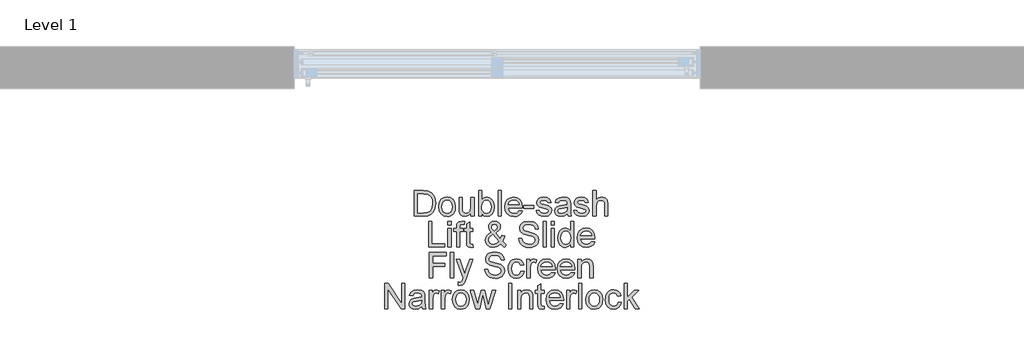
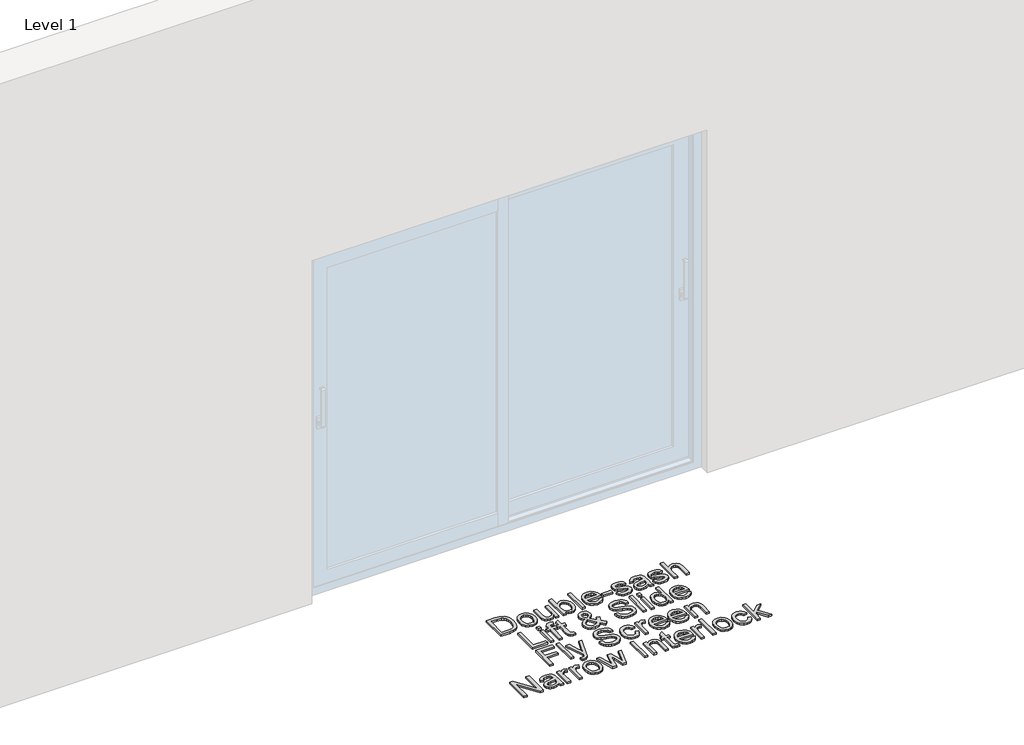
# One storey, part 8 of 17: 1 proxy.
"""IFC4 building model written with IfcOpenShell, lengths in millimetres."""

from ifc_helpers import new_model, si_unit, origin, origin_with_axes, place, context, project, spatial, polyline, outline, extrude, element, save

model = new_model("IFC4")

# Units and contexts
model_context = context("Model", 3, world=origin())
ifc_project = project(units=[si_unit("LENGTHUNIT", "METRE", prefix="MILLI")], contexts=[model_context])

# Site, building, storey
site = spatial("IfcSite", under=ifc_project)
building = spatial("IfcBuilding", under=site)
storey = spatial("IfcBuildingStorey", under=building, Name="Level 1", Elevation=0.0)

# Proxy
placement = place(None, origin())
element("IfcBuildingElementProxy", 1, Name="150mm Arial", ObjectType="150mm Arial", at=placement, inside=storey, context=model_context, shape_type="SweptSolid", body=[
    extrude(outline(polyline([(7088.4009515, -897.6627533), (7088.4009515, -746.9782881), (7140.3826774, -746.9782881), (7167.2748513, -749.1487919), (7189.4213474, -759.9277343), (7199.8416049, -771.4056526), (7207.2636242, -785.679474), (7211.7057993, -802.4732871), (7213.1865243, -821.5111803), (7209.1766105, -851.9166272), (7198.8759147, -873.8607883), (7185.1171281, -887.5276044), (7167.1093044, -895.0875794), (7142.884275, -897.6627533), (7088.4009515, -897.6627533)]), holes=[polyline([(7107.2365097, -878.8271952), (7140.5666184, -878.8271952), (7164.8100419, -876.1048684), (7178.7895577, -868.4161347), (7190.2490819, -849.7093353), (7194.3509661, -821.2168747), (7192.3414107, -800.6890594), (7186.3127445, -785.5323212), (7177.4054017, -775.1212607), (7166.7598165, -768.8304786), (7140.0515836, -765.8138463), (7107.2365097, -765.8138463), (7107.2365097, -878.8271952)])]), origin_with_axes(), (0.0, 0.0, 1.0), 10.0),
    extrude(outline(polyline([(7232.0220824, -842.3333013), (7236.0963755, -815.6526596), (7248.3192548, -796.8998749), (7263.4208107, -787.712022), (7281.5022108, -784.6494044), (7301.2896636, -788.3788081), (7317.0947938, -799.5670193), (7327.4552705, -817.3311212), (7330.9087627, -840.7881969), (7329.3820525, -859.8168931), (7324.8019216, -874.3022466), (7317.3017274, -885.150167), (7307.0148272, -893.2665635), (7294.7965464, -898.3295395), (7281.5022108, -900.0171981), (7261.4756347, -896.30159), (7245.6888986, -885.1547655), (7235.4387865, -867.0181831), (7232.0220824, -842.3333013)]), holes=[polyline([(7250.8576406, -842.2965131), (7253.0373414, -859.343245), (7259.5764439, -871.4879494), (7269.4172873, -878.7582173), (7281.5022108, -881.18164), (7293.531952, -878.7444217), (7303.3544013, -871.4327671), (7309.8935038, -859.1271143), (7312.0732046, -841.7079019), (7309.8797082, -825.1578106), (7303.299219, -813.1786531), (7293.4629742, -805.9083852), (7281.5022108, -803.4849626), (7269.4172873, -805.8991882), (7259.5764439, -813.141865), (7253.0373414, -825.2589782), (7250.8576406, -842.2965131)])]), origin_with_axes(), (0.0, 0.0, 1.0), 10.0),
    extrude(outline(polyline([(7422.7321087, -897.6627533), (7422.7321087, -878.6432542), (7407.9800407, -894.6737121), (7388.7398124, -900.0171981), (7371.0262943, -896.2648018), (7358.8126121, -886.8470227), (7353.2024117, -872.9778715), (7352.0987657, -855.4666885), (7352.0987657, -787.0038492), (7370.9343238, -787.0038492), (7370.9343238, -846.6007324), (7372.074758, -865.8041726), (7379.5243684, -877.0797557), (7393.5590665, -881.18164), (7409.2860218, -876.9877852), (7419.6786882, -865.5650493), (7422.7321087, -844.5773814), (7422.7321087, -787.0038492), (7441.5676669, -787.0038492), (7441.5676669, -897.6627533), (7422.7321087, -897.6627533)])), origin_with_axes(), (0.0, 0.0, 1.0), 10.0),
    extrude(outline(polyline([(7486.3021175, -897.6627533), (7467.4665594, -897.6627533), (7467.4665594, -746.9782881), (7486.3021175, -746.9782881), (7486.3021175, -802.8595632), (7499.490687, -789.2019441), (7515.8798299, -784.6494044), (7534.7521763, -788.7512887), (7549.3938797, -800.2843892), (7558.3885945, -818.2186365), (7561.6443501, -840.6778323), (7558.2736313, -865.8225667), (7548.161475, -884.5293661), (7533.322035, -896.1452401), (7515.7694653, -900.0171981), (7499.0216375, -895.0232), (7486.3021175, -880.0412058), (7486.3021175, -897.6627533)]), holes=[polyline([(7486.3021175, -841.5607491), (7487.5897045, -857.2693103), (7491.4524654, -867.9010999), (7501.3209, -877.861505), (7514.1507845, -881.18164), (7525.0216975, -878.7352247), (7534.3107179, -871.3959789), (7540.6842734, -859.2098878), (7542.808792, -842.2229367), (7540.7716454, -824.9876652), (7534.6602058, -812.9395299), (7525.6608925, -805.8486044), (7514.9601249, -803.4849626), (7504.089212, -805.9313778), (7494.8001916, -813.2706236), (7488.426636, -825.2359855), (7486.3021175, -841.5607491)])]), origin_with_axes(), (0.0, 0.0, 1.0), 10.0),
    extrude(outline(polyline([(7582.834353, -897.6627533), (7582.834353, -746.9782881), (7601.6699112, -746.9782881), (7601.6699112, -897.6627533), (7582.834353, -897.6627533)])), origin_with_axes(), (0.0, 0.0, 1.0), 10.0),
    extrude(outline(polyline([(7707.3991966, -864.7005266), (7725.8668728, -867.0549713), (7719.2128072, -880.9701078), (7708.5948131, -891.3719712), (7694.2520138, -897.8558914), (7676.4235326, -900.0171981), (7654.3230218, -896.2877944), (7637.3176765, -885.0995832), (7626.4743547, -867.1791315), (7622.8599141, -843.2530063), (7626.5111429, -818.5221391), (7637.4648293, -800.0268718), (7654.2402483, -788.4937713), (7675.3566748, -784.6494044), (7695.8155123, -788.4845742), (7712.1632684, -799.9900836), (7722.8824301, -818.4485627), (7726.455484, -843.1426417), (7726.3451194, -848.2194132), (7641.6954723, -848.2194132), (7644.9558265, -862.3184907), (7652.529597, -872.6835659), (7663.4602908, -879.0571214), (7676.7914146, -881.18164), (7695.2590908, -877.2453026), (7707.3991966, -864.7005266)]), holes=[polyline([(7641.6954723, -829.383855), (7707.6199258, -829.383855), (7705.072343, -819.4326471), (7700.0783449, -812.3141305), (7689.0970674, -805.6922545), (7675.2830984, -803.4849626), (7662.5865711, -805.2461976), (7652.0881386, -810.5299028), (7644.7902796, -818.765861), (7641.6954723, -829.383855)])]), origin_with_axes(), (0.0, 0.0, 1.0), 10.0),
    extrude(outline(polyline([(7735.873263, -852.9283027), (7735.873263, -834.0927446), (7794.7343823, -834.0927446), (7794.7343823, -852.9283027), (7735.873263, -852.9283027)])), origin_with_axes(), (0.0, 0.0, 1.0), 10.0),
    extrude(outline(polyline([(7808.8610509, -864.7005266), (7827.696609, -862.3460818), (7830.6672561, -870.4026975), (7836.4154123, -876.3255976), (7856.3914047, -881.18164), (7875.5948448, -876.7302678), (7881.8488387, -866.2824192), (7880.2761432, -861.4815591), (7875.5580566, -857.8211333), (7856.1706755, -852.4500561), (7827.8069736, -843.2346122), (7815.4277445, -832.4740638), (7811.2154956, -817.2805374), (7814.60001, -803.2458393), (7823.8338481, -792.5220791), (7835.808407, -786.9486669), (7852.0136089, -784.6494044), (7874.9326572, -788.3466185), (7889.5007842, -798.3530087), (7895.9755073, -815.2571864), (7877.1399492, -817.6116312), (7870.0582208, -807.2189648), (7853.4851369, -803.4849626), (7835.4589191, -807.0534179), (7830.0510538, -815.367551), (7832.295134, -820.8489927), (7839.3216801, -825.0060593), (7855.5452761, -829.015973), (7883.191608, -837.8819291), (7896.0306896, -847.9251076), (7900.6843969, -864.2958564), (7895.2213492, -882.3220741), (7879.4576058, -895.4002791), (7856.1338873, -900.0171981), (7837.1419793, -897.791512), (7823.2820251, -891.1144538), (7814.0297929, -880.0595999), (7808.8610509, -864.7005266)])), origin_with_axes(), (0.0, 0.0, 1.0), 10.0),
    extrude(outline(polyline([(7992.5077429, -883.5360847), (7974.2424018, -896.30159), (7954.0640744, -900.0171981), (7938.3233235, -897.782315), (7926.712048, -891.0776656), (7919.5521447, -880.8965314), (7917.1655103, -868.2321937), (7920.7707538, -853.3329729), (7930.2437152, -842.5172423), (7943.4322847, -836.3368247), (7959.7294571, -833.5041334), (7992.3973783, -827.0294103), (7992.5077429, -822.8355555), (7991.2109588, -814.4294519), (7987.3206067, -808.9296161), (7978.6201976, -804.846126), (7966.4984858, -803.4849626), (7947.4421985, -807.1086002), (7938.3555132, -819.966076), (7919.519955, -817.6116312), (7927.6685412, -799.2175314), (7944.0760782, -788.438589), (7968.926507, -784.6494044), (7991.7535848, -787.9971306), (8004.6478487, -796.4032342), (8010.423596, -809.1871335), (8011.343301, -825.6682469), (8011.343301, -849.10233), (8012.2997942, -881.8254334), (8016.0521906, -897.6627533), (7997.2166324, -897.6627533), (7992.5077429, -883.5360847)]), holes=[polyline([(7992.5077429, -845.8649684), (7962.1206901, -851.6407157), (7945.9154882, -854.6941363), (7938.5762424, -859.6605432), (7936.0010684, -866.9078185), (7941.6112688, -877.0981498), (7958.0739881, -881.18164), (7977.1302755, -876.6750855), (7989.4175341, -865.7673844), (7992.3973783, -851.1992574), (7992.5077429, -845.8649684)])]), origin_with_axes(), (0.0, 0.0, 1.0), 10.0),
    extrude(outline(polyline([(8030.1788592, -864.7005266), (8049.0144173, -862.3460818), (8051.9850644, -870.4026975), (8057.7332206, -876.3255976), (8077.709213, -881.18164), (8096.9126531, -876.7302678), (8103.166647, -866.2824192), (8101.5939515, -861.4815591), (8096.8758649, -857.8211333), (8077.4884838, -852.4500561), (8049.1247819, -843.2346122), (8036.7455528, -832.4740638), (8032.5333039, -817.2805374), (8035.9178183, -803.2458393), (8045.1516564, -792.5220791), (8057.1262153, -786.9486669), (8073.3314172, -784.6494044), (8096.2504655, -788.3466185), (8110.8185925, -798.3530087), (8117.2933156, -815.2571864), (8098.4577575, -817.6116312), (8091.3760291, -807.2189648), (8074.8029452, -803.4849626), (8056.7767274, -807.0534179), (8051.3688621, -815.367551), (8053.6129423, -820.8489927), (8060.6394884, -825.0060593), (8076.8630844, -829.015973), (8104.5094163, -837.8819291), (8117.3484979, -847.9251076), (8122.0022052, -864.2958564), (8116.5391575, -882.3220741), (8100.7754141, -895.4002791), (8077.4516956, -900.0171981), (8058.4597876, -897.791512), (8044.5998334, -891.1144538), (8035.3476012, -880.0595999), (8030.1788592, -864.7005266)])), origin_with_axes(), (0.0, 0.0, 1.0), 10.0),
    extrude(outline(polyline([(8143.1922081, -897.6627533), (8143.1922081, -746.9782881), (8162.0277662, -746.9782881), (8162.0277662, -802.3813166), (8176.7154549, -789.0823825), (8194.806052, -784.6494044), (8215.9592667, -789.4870527), (8228.7983484, -802.8595632), (8232.6611093, -827.6180215), (8232.6611093, -897.6627533), (8213.8255512, -897.6627533), (8213.8255512, -829.567796), (8212.326432, -817.7771781), (8207.8290746, -809.7021683), (8200.5817993, -805.039264), (8190.8329265, -803.4849626), (8175.4002768, -807.6788173), (8165.0995809, -819.046371), (8162.0277662, -838.8752105), (8162.0277662, -897.6627533), (8143.1922081, -897.6627533)])), origin_with_axes(), (0.0, 0.0, 1.0), 10.0),
    extrude(outline(polyline([(7173.1609632, -1080.6249801), (7173.1609632, -929.9405149), (7191.9965214, -929.9405149), (7191.9965214, -1061.789422), (7267.338754, -1061.789422), (7267.338754, -1080.6249801), (7173.1609632, -1080.6249801)])), origin_with_axes(), (0.0, 0.0, 1.0), 10.0),
    extrude(outline(polyline([(7286.1743121, -948.776073), (7286.1743121, -929.9405149), (7305.0098703, -929.9405149), (7305.0098703, -948.776073), (7286.1743121, -948.776073)])), origin_with_axes(), (0.0, 0.0, 1.0), 10.0),
    extrude(outline(polyline([(7286.1743121, -1080.6249801), (7286.1743121, -969.966076), (7305.0098703, -969.966076), (7305.0098703, -1080.6249801), (7286.1743121, -1080.6249801)])), origin_with_axes(), (0.0, 0.0, 1.0), 10.0),
    extrude(outline(polyline([(7337.9720971, -1080.6249801), (7337.9720971, -988.8016341), (7321.4909837, -988.8016341), (7321.4909837, -969.966076), (7337.9720971, -969.966076), (7337.9720971, -958.8192515), (7339.9586598, -943.1106903), (7349.5971681, -931.8902895), (7368.5798791, -927.5860701), (7385.7599682, -929.6462093), (7383.0008533, -947.3045451), (7372.1483344, -946.4216283), (7360.2841401, -949.5486252), (7356.8076552, -961.2104845), (7356.8076552, -969.966076), (7377.9976581, -969.966076), (7377.9976581, -988.8016341), (7356.8076552, -988.8016341), (7356.8076552, -1080.6249801), (7337.9720971, -1080.6249801)])), origin_with_axes(), (0.0, 0.0, 1.0), 10.0),
    extrude(outline(polyline([(7434.5043326, -1064.9164189), (7436.8587774, -1081.1768031), (7422.7688969, -1082.9794249), (7406.9867593, -1079.8524279), (7399.1140847, -1071.6486594), (7396.8332163, -1050.2747155), (7396.8332163, -988.8016341), (7382.7065477, -988.8016341), (7382.7065477, -969.966076), (7396.8332163, -969.966076), (7396.8332163, -943.0739021), (7415.6687744, -932.0006541), (7415.6687744, -969.966076), (7434.5043326, -969.966076), (7434.5043326, -988.8016341), (7415.6687744, -988.8016341), (7415.6687744, -1049.7228925), (7416.6620558, -1059.4349772), (7419.8810233, -1062.8746738), (7426.3005641, -1064.1438667), (7434.5043326, -1064.9164189)])), origin_with_axes(), (0.0, 0.0, 1.0), 10.0),
    extrude(outline(polyline([(7598.6164906, -1062.0101512), (7578.6404983, -1077.7371064), (7555.2799916, -1082.9794249), (7534.4946589, -1079.0982698), (7518.4917921, -1067.4548047), (7510.2420383, -1054.054703), (7507.4921204, -1039.1646793), (7509.7040109, -1025.9669127), (7516.3396824, -1014.1119154), (7527.3715437, -1003.6088844), (7542.7720038, -994.4670168), (7529.6202224, -975.4107295), (7526.3276786, -961.2840609), (7528.9212467, -948.5645409), (7536.7019508, -937.6292486), (7548.4097953, -930.0968647), (7562.7847843, -927.5860701), (7576.4607975, -929.9865001), (7587.3960898, -937.1877902), (7594.5697887, -947.7552005), (7596.9610217, -960.2539913), (7595.1905896, -970.7478252), (7589.8792933, -980.4507128), (7568.634108, -997.4836492), (7595.8941639, -1031.4391574), (7604.024356, -1010.5802482), (7622.8599141, -1014.6637384), (7609.5425859, -1045.6761906), (7632.2776932, -1068.4848743), (7618.1510246, -1082.9794249), (7598.6164906, -1062.0101512)]), holes=[polyline([(7559.1059644, -985.6010608), (7574.5937964, -973.9208074), (7578.1254635, -962.8291653), (7573.4717563, -951.0017591), (7561.8282911, -946.4216283), (7549.9273086, -950.9649709), (7545.1632367, -962.0566131), (7546.7819175, -968.9544005), (7551.6747481, -976.6247401), (7559.1059644, -985.6010608)]), polyline([(7585.9981382, -1048.4353055), (7552.3737238, -1006.4599699), (7531.6803616, -1022.2421075), (7526.3276786, -1036.6630817), (7528.1578915, -1045.5474319), (7533.6485303, -1054.7628758), (7542.4960923, -1061.798619), (7554.3970748, -1064.1438667), (7571.7059227, -1059.766071), (7585.9981382, -1048.4353055)])]), origin_with_axes(), (0.0, 0.0, 1.0), 10.0),
    extrude(outline(polyline([(7705.265481, -1028.8271952), (7724.1010392, -1028.8271952), (7730.1710921, -1047.6811474), (7744.9967365, -1059.6005241), (7767.584691, -1064.1438667), (7787.2663778, -1060.7041701), (7799.9767007, -1051.2496028), (7804.1521613, -1038.6128563), (7801.0251644, -1026.8590265), (7788.222871, -1018.3057701), (7760.7972682, -1011.1136771), (7731.2747381, -1001.8246567), (7715.2534772, -987.8083527), (7709.9743706, -969.0831592), (7711.6068469, -958.0512978), (7716.504276, -947.7643976), (7724.5378991, -939.0455943), (7735.5789574, -932.7180239), (7763.5012009, -927.5860701), (7793.2996425, -932.9571472), (7804.7223784, -939.5882202), (7813.1652702, -948.7392848), (7818.5087562, -959.840124), (7820.6332747, -972.3205207), (7801.7977166, -972.3205207), (7798.3396258, -961.0817258), (7791.1291387, -952.9699278), (7779.8627526, -948.0587031), (7764.2369649, -946.4216283), (7748.2432951, -948.040309), (7737.2712146, -952.8963514), (7730.9252502, -960.0424591), (7728.8099287, -968.5313362), (7730.3090479, -975.7694144), (7734.8064053, -981.591147), (7765.56134, -992.1125721), (7798.8914488, -1001.5671393), (7809.6290045, -1008.4005474), (7817.1200017, -1016.8342421), (7821.52079, -1026.7762531), (7822.9877195, -1038.1346097), (7821.3000608, -1049.7458851), (7816.2370849, -1060.6673819), (7808.0057252, -1070.0667668), (7796.8129155, -1077.1117071), (7783.353033, -1081.5124954), (7768.320455, -1082.9794249), (7749.8665744, -1081.3975323), (7734.6776466, -1076.6518546), (7722.5789274, -1068.7239976), (7713.3956731, -1057.5955672), (7707.5003642, -1044.0391157), (7705.265481, -1028.8271952)])), origin_with_axes(), (0.0, 0.0, 1.0), 10.0),
    extrude(outline(polyline([(7848.886612, -1080.6249801), (7848.886612, -929.9405149), (7867.7221701, -929.9405149), (7867.7221701, -1080.6249801), (7848.886612, -1080.6249801)])), origin_with_axes(), (0.0, 0.0, 1.0), 10.0),
    extrude(outline(polyline([(7895.9755073, -948.776073), (7895.9755073, -929.9405149), (7914.8110655, -929.9405149), (7914.8110655, -948.776073), (7895.9755073, -948.776073)])), origin_with_axes(), (0.0, 0.0, 1.0), 10.0),
    extrude(outline(polyline([(7895.9755073, -1080.6249801), (7895.9755073, -969.966076), (7914.8110655, -969.966076), (7914.8110655, -1080.6249801), (7895.9755073, -1080.6249801)])), origin_with_axes(), (0.0, 0.0, 1.0), 10.0),
    extrude(outline(polyline([(8011.343301, -1080.6249801), (8011.343301, -1062.8562797), (7998.8812984, -1077.9486386), (7981.655224, -1082.9794249), (7969.47833, -1081.158409), (7958.3315055, -1075.6953614), (7948.8953323, -1066.9719596), (7941.8503921, -1055.3698811), (7937.4633993, -1041.3581756), (7936.0010684, -1025.4058926), (7941.3905396, -995.42351), (7948.1227802, -983.5317245), (7957.5405592, -974.7853301), (7968.9311055, -969.4050559), (7981.5816476, -967.6116312), (7998.9456778, -972.743585), (8011.343301, -986.0793073), (8011.343301, -929.9405149), (8030.1788592, -929.9405149), (8030.1788592, -1080.6249801), (8011.343301, -1080.6249801)]), holes=[polyline([(7954.8366266, -1025.3323162), (7956.9611451, -1042.3698511), (7963.3347007, -1054.4869644), (7972.5961299, -1061.7296411), (7983.3842694, -1064.1438667), (7994.1678104, -1061.8400057), (8003.1947148, -1054.9284227), (8009.3061545, -1043.2803591), (8011.343301, -1026.767056), (8009.2693663, -1008.7132471), (8003.047562, -996.1960622), (7993.7907313, -988.8844076), (7982.6117172, -986.4471893), (7971.7132131, -988.7878385), (7962.7828777, -995.8097861), (7956.8231893, -1007.871717), (7954.8366266, -1025.3323162)])]), origin_with_axes(), (0.0, 0.0, 1.0), 10.0),
    extrude(outline(polyline([(8135.9081446, -1047.6627533), (8154.3758208, -1050.0171981), (8147.7217552, -1063.9323346), (8137.1037611, -1074.334198), (8122.7609618, -1080.8181182), (8104.9324806, -1082.9794249), (8082.8319697, -1079.2500212), (8065.8266245, -1068.06181), (8054.9833027, -1050.1413583), (8051.3688621, -1026.215233), (8055.0200909, -1001.4843659), (8065.9737773, -982.9890986), (8082.7491963, -971.455998), (8103.8656228, -967.6116312), (8124.3244603, -971.446801), (8140.6722164, -982.9523104), (8151.3913781, -1001.4107895), (8154.9644319, -1026.1048684), (8154.8540673, -1031.18164), (8070.2044203, -1031.18164), (8073.4647744, -1045.2807174), (8081.038545, -1055.6457926), (8091.9692388, -1062.0193482), (8105.3003626, -1064.1438667), (8123.7680388, -1060.2075294), (8135.9081446, -1047.6627533)]), holes=[polyline([(8070.2044203, -1012.3460818), (8136.1288738, -1012.3460818), (8133.581291, -1002.3948738), (8128.5872929, -995.2763572), (8117.6060153, -988.6544813), (8103.7920464, -986.4471893), (8091.0955191, -988.2084244), (8080.5970866, -993.4921296), (8073.2992275, -1001.7280877), (8070.2044203, -1012.3460818)])]), origin_with_axes(), (0.0, 0.0, 1.0), 10.0),
    extrude(outline(polyline([(7176.6926304, -1263.5872069), (7176.6926304, -1112.9027417), (7277.9337554, -1112.9027417), (7277.9337554, -1131.7382998), (7195.5281885, -1131.7382998), (7195.5281885, -1176.4727504), (7266.1615316, -1176.4727504), (7266.1615316, -1195.3083086), (7195.5281885, -1195.3083086), (7195.5281885, -1263.5872069), (7176.6926304, -1263.5872069)])), origin_with_axes(), (0.0, 0.0, 1.0), 10.0),
    extrude(outline(polyline([(7301.4782031, -1263.5872069), (7301.4782031, -1112.9027417), (7320.3137613, -1112.9027417), (7320.3137613, -1263.5872069), (7301.4782031, -1263.5872069)])), origin_with_axes(), (0.0, 0.0, 1.0), 10.0),
    extrude(outline(polyline([(7348.5670985, -1305.9672127), (7346.2126537, -1287.8306304), (7355.7775856, -1289.4860993), (7364.7171181, -1287.4075661), (7370.1985598, -1281.6134246), (7375.3489078, -1267.7442734), (7376.8204357, -1263.1825367), (7336.7948747, -1152.9283027), (7356.6605024, -1152.9283027), (7377.8872935, -1214.3645959), (7385.2817216, -1238.9391132), (7392.6761497, -1217.2340755), (7414.4915521, -1152.9283027), (7434.210027, -1152.9283027), (7395.6927821, -1266.2359572), (7385.6863918, -1290.8104745), (7374.7602966, -1304.0910145), (7360.081805, -1308.3216575), (7348.5670985, -1305.9672127)])), origin_with_axes(), (0.0, 0.0, 1.0), 10.0),
    extrude(outline(polyline([(7503.9604533, -1211.789422), (7522.7960114, -1211.789422), (7528.8660644, -1230.6433742), (7543.6917088, -1242.5627509), (7566.2796633, -1247.1060935), (7585.96135, -1243.6663968), (7598.6716729, -1234.2118296), (7602.8471336, -1221.575083), (7599.7201366, -1209.8212533), (7586.9178432, -1201.2679969), (7559.4922404, -1194.0759039), (7529.9697103, -1184.7868835), (7513.9484494, -1170.7705795), (7508.6693428, -1152.0453859), (7510.3018192, -1141.0135246), (7515.1992482, -1130.7266243), (7523.2328713, -1122.007821), (7534.2739297, -1115.6802507), (7562.1961731, -1110.5482969), (7591.9946147, -1115.919374), (7603.4173507, -1122.550447), (7611.8602425, -1131.7015116), (7617.2037284, -1142.8023508), (7619.328247, -1155.2827475), (7600.4926888, -1155.2827475), (7597.0345981, -1144.0439525), (7589.824111, -1135.9321546), (7578.5577248, -1131.0209299), (7562.9319371, -1129.383855), (7546.9382674, -1131.0025358), (7535.9661869, -1135.8585782), (7529.6202224, -1143.0046859), (7527.504901, -1151.4935629), (7529.0040201, -1158.7316412), (7533.5013775, -1164.5533738), (7564.2563123, -1175.0747988), (7597.5864211, -1184.5293661), (7608.3239768, -1191.3627742), (7615.8149739, -1199.7964689), (7620.2157623, -1209.7384798), (7621.6826917, -1221.0968364), (7619.9950331, -1232.7081119), (7614.9320571, -1243.6296086), (7606.7006975, -1253.0289936), (7595.5078878, -1260.0739338), (7582.0480053, -1264.4747222), (7567.0154273, -1265.9416516), (7548.5615467, -1264.3597591), (7533.3726188, -1259.6140813), (7521.2738997, -1251.6862243), (7512.0906454, -1240.557794), (7506.1953364, -1227.0013425), (7503.9604533, -1211.789422)])), origin_with_axes(), (0.0, 0.0, 1.0), 10.0),
    extrude(outline(polyline([(7718.2149273, -1223.5616458), (7737.0504854, -1225.9160906), (7731.7989699, -1242.6685169), (7721.9305354, -1255.3282561), (7708.3740839, -1263.2883028), (7692.0585174, -1265.9416516), (7672.0227442, -1262.2398391), (7656.3555698, -1251.1344013), (7646.2434134, -1233.1127821), (7642.8726947, -1208.662425), (7644.312033, -1191.9008016), (7648.6300479, -1177.3740613), (7655.8957173, -1165.6432242), (7666.1780191, -1157.2693103), (7678.4790733, -1152.247721), (7691.801, -1150.573858), (7707.7164948, -1152.8731204), (7720.4406133, -1159.7709078), (7729.5686853, -1170.8993382), (7734.6960407, -1185.8905295), (7715.8604825, -1188.2449743), (7707.1232851, -1174.1366998), (7691.9481528, -1169.4094161), (7679.7758573, -1171.7362697), (7670.1143564, -1178.7168306), (7663.8097787, -1190.7281777), (7661.7082528, -1208.1473902), (7663.7637935, -1225.8011274), (7669.9304154, -1237.8538613), (7679.4171724, -1244.7930354), (7691.433118, -1247.1060935), (7701.1865894, -1245.6621567), (7709.1834243, -1241.3303462), (7715.0005583, -1234.0002974), (7718.2149273, -1223.5616458)])), origin_with_axes(), (0.0, 0.0, 1.0), 10.0),
    extrude(outline(polyline([(7753.5315988, -1263.5872069), (7753.5315988, -1152.9283027), (7770.0127122, -1152.9283027), (7770.0127122, -1169.2990515), (7781.7113596, -1154.2158897), (7793.4835835, -1150.573858), (7812.392718, -1156.3863935), (7806.1019359, -1173.2721771), (7792.8581841, -1169.4094161), (7782.2080003, -1173.1250243), (7775.4205775, -1183.4257201), (7772.367157, -1205.4250634), (7772.367157, -1263.5872069), (7753.5315988, -1263.5872069)])), origin_with_axes(), (0.0, 0.0, 1.0), 10.0),
    extrude(outline(polyline([(7901.6408901, -1230.6249801), (7920.1085662, -1232.9794249), (7913.4545006, -1246.8945613), (7902.8365065, -1257.2964248), (7888.4937073, -1263.7803449), (7870.6652261, -1265.9416516), (7848.5647152, -1262.2122479), (7831.55937, -1251.0240367), (7820.7160482, -1233.1035851), (7817.1016076, -1209.1774598), (7820.7528364, -1184.4465927), (7831.7065228, -1165.9513254), (7848.4819418, -1154.4182248), (7869.5983683, -1150.573858), (7890.0572057, -1154.4090278), (7906.4049619, -1165.9145372), (7917.1241235, -1184.3730163), (7920.6971774, -1209.0670952), (7920.5868128, -1214.1438667), (7835.9371657, -1214.1438667), (7839.1975199, -1228.2429442), (7846.7712905, -1238.6080194), (7857.7019843, -1244.981575), (7871.0331081, -1247.1060935), (7889.5007842, -1243.1697561), (7901.6408901, -1230.6249801)]), holes=[polyline([(7835.9371657, -1195.3083086), (7901.8616193, -1195.3083086), (7899.3140364, -1185.3571006), (7894.3200384, -1178.238584), (7883.3387608, -1171.6167081), (7869.5247919, -1169.4094161), (7856.8282645, -1171.1706512), (7846.3298321, -1176.4543563), (7839.031973, -1184.6903145), (7835.9371657, -1195.3083086)])]), origin_with_axes(), (0.0, 0.0, 1.0), 10.0),
    extrude(outline(polyline([(8017.0086838, -1230.6249801), (8035.4763599, -1232.9794249), (8028.8222943, -1246.8945613), (8018.2043002, -1257.2964248), (8003.8615009, -1263.7803449), (7986.0330198, -1265.9416516), (7963.9325089, -1262.2122479), (7946.9271637, -1251.0240367), (7936.0838419, -1233.1035851), (7932.4694013, -1209.1774598), (7936.1206301, -1184.4465927), (7947.0743165, -1165.9513254), (7963.8497354, -1154.4182248), (7984.966162, -1150.573858), (8005.4249994, -1154.4090278), (8021.7727556, -1165.9145372), (8032.4919172, -1184.3730163), (8036.0649711, -1209.0670952), (8035.9546065, -1214.1438667), (7951.3049594, -1214.1438667), (7954.5653136, -1228.2429442), (7962.1390842, -1238.6080194), (7973.069778, -1244.981575), (7986.4009018, -1247.1060935), (8004.8685779, -1243.1697561), (8017.0086838, -1230.6249801)]), holes=[polyline([(7951.3049594, -1195.3083086), (8017.2294129, -1195.3083086), (8014.6818301, -1185.3571006), (8009.687832, -1178.238584), (7998.7065545, -1171.6167081), (7984.8925856, -1169.4094161), (7972.1960582, -1171.1706512), (7961.6976258, -1176.4543563), (7954.3997667, -1184.6903145), (7951.3049594, -1195.3083086)])]), origin_with_axes(), (0.0, 0.0, 1.0), 10.0),
    extrude(outline(polyline([(8054.9005293, -1263.5872069), (8054.9005293, -1152.9283027), (8073.7360874, -1152.9283027), (8073.7360874, -1168.3793465), (8088.1386675, -1155.0252301), (8107.8019602, -1150.573858), (8125.5890546, -1154.1607074), (8137.7291605, -1163.5784865), (8143.3761491, -1177.4292436), (8144.3694305, -1195.6394024), (8144.3694305, -1263.5872069), (8125.5338723, -1263.5872069), (8125.5338723, -1198.1777881), (8123.3633686, -1181.5127338), (8115.693029, -1172.70196), (8102.7619768, -1169.4094161), (8091.7301155, -1171.2580231), (8082.326132, -1176.8038442), (8075.8835986, -1187.5184073), (8073.7360874, -1204.8732404), (8073.7360874, -1263.5872069), (8054.9005293, -1263.5872069)])), origin_with_axes(), (0.0, 0.0, 1.0), 10.0),
    extrude(outline(polyline([(6912.9948162, -1446.5494336), (6912.9948162, -1295.8649684), (6933.1547496, -1295.8649684), (7011.8814965, -1415.2426759), (7011.8814965, -1295.8649684), (7030.7170547, -1295.8649684), (7030.7170547, -1446.5494336), (7010.5571213, -1446.5494336), (6931.8303744, -1327.134938), (6931.8303744, -1446.5494336), (6912.9948162, -1446.5494336)])), origin_with_axes(), (0.0, 0.0, 1.0), 10.0),
    extrude(outline(polyline([(7131.9581798, -1432.422765), (7113.6928387, -1445.1882703), (7093.5145113, -1448.9038784), (7077.7737604, -1446.6689953), (7066.1624849, -1439.9643459), (7059.0025816, -1429.7832117), (7056.6159471, -1417.118874), (7060.2211907, -1402.2196532), (7069.6941521, -1391.4039226), (7082.8827216, -1385.223505), (7099.179894, -1382.3908137), (7131.8478152, -1375.9160906), (7131.9581798, -1371.7222358), (7130.6613957, -1363.3161322), (7126.7710436, -1357.8162964), (7118.0706344, -1353.7328063), (7105.9489227, -1352.3716429), (7086.8926353, -1355.9952805), (7077.8059501, -1368.8527563), (7058.9703919, -1366.4983115), (7067.1189781, -1348.1042117), (7083.5265151, -1337.3252693), (7108.3769439, -1333.5360847), (7131.2040217, -1336.8838109), (7144.0982856, -1345.2899145), (7149.8740329, -1358.0738138), (7150.7937379, -1374.5549272), (7150.7937379, -1397.9890103), (7151.7502311, -1430.7121138), (7155.5026274, -1446.5494336), (7136.6670693, -1446.5494336), (7131.9581798, -1432.422765)]), holes=[polyline([(7131.9581798, -1394.7516487), (7101.571127, -1400.527396), (7085.3659251, -1403.5808166), (7078.0266793, -1408.5472235), (7075.4515053, -1415.7944988), (7081.0617057, -1425.9848301), (7097.524425, -1430.0683203), (7116.5807124, -1425.5617658), (7128.867971, -1414.6540647), (7131.8478152, -1400.0859377), (7131.9581798, -1394.7516487)])]), origin_with_axes(), (0.0, 0.0, 1.0), 10.0),
    extrude(outline(polyline([(7176.6926304, -1446.5494336), (7176.6926304, -1335.8905295), (7193.1737438, -1335.8905295), (7193.1737438, -1352.2612783), (7204.8723912, -1337.1781165), (7216.644615, -1333.5360847), (7235.5537496, -1339.3486203), (7229.2629675, -1356.2344038), (7216.0192157, -1352.3716429), (7205.3690319, -1356.087251), (7198.5816091, -1366.3879469), (7195.5281885, -1388.3872902), (7195.5281885, -1446.5494336), (7176.6926304, -1446.5494336)])), origin_with_axes(), (0.0, 0.0, 1.0), 10.0),
    extrude(outline(polyline([(7247.3259734, -1446.5494336), (7247.3259734, -1335.8905295), (7263.8070868, -1335.8905295), (7263.8070868, -1352.2612783), (7275.5057343, -1337.1781165), (7287.2779581, -1333.5360847), (7306.1870927, -1339.3486203), (7299.8963106, -1356.2344038), (7286.6525587, -1352.3716429), (7276.002375, -1356.087251), (7269.2149522, -1366.3879469), (7266.1615316, -1388.3872902), (7266.1615316, -1446.5494336), (7247.3259734, -1446.5494336)])), origin_with_axes(), (0.0, 0.0, 1.0), 10.0),
    extrude(outline(polyline([(7313.250427, -1391.2199816), (7317.3247201, -1364.5393399), (7329.5475994, -1345.7865552), (7344.6491553, -1336.5987023), (7362.7305553, -1333.5360847), (7382.5180081, -1337.2654885), (7398.3231384, -1348.4536996), (7408.6836151, -1366.2178015), (7412.1371073, -1389.6748772), (7410.610397, -1408.7035734), (7406.0302662, -1423.188927), (7398.530072, -1434.0368473), (7388.2431717, -1442.1532438), (7376.0248909, -1447.2162198), (7362.7305553, -1448.9038784), (7342.7039792, -1445.1882703), (7326.9172431, -1434.0414458), (7316.667131, -1415.9048634), (7313.250427, -1391.2199816)]), holes=[polyline([(7332.0859851, -1391.1831934), (7334.265686, -1408.2299253), (7340.8047884, -1420.3746297), (7350.6456318, -1427.6448976), (7362.7305553, -1430.0683203), (7374.7602966, -1427.631102), (7384.5827458, -1420.3194474), (7391.1218483, -1408.0137947), (7393.3015491, -1390.5945822), (7391.1080527, -1374.0444909), (7384.5275635, -1362.0653335), (7374.6913187, -1354.7950655), (7362.7305553, -1352.3716429), (7350.6456318, -1354.7858685), (7340.8047884, -1362.0285453), (7334.265686, -1374.1456585), (7332.0859851, -1391.1831934)])]), origin_with_axes(), (0.0, 0.0, 1.0), 10.0),
    extrude(outline(polyline([(7451.6844218, -1446.5494336), (7418.0232192, -1335.8905295), (7437.5945413, -1335.8905295), (7456.6876169, -1400.4538196), (7462.3897878, -1423.5200207), (7467.0618892, -1401.2999482), (7482.2554156, -1335.8905295), (7504.6962173, -1335.8905295), (7519.8161673, -1401.1160072), (7523.9732338, -1421.2391524), (7529.9329221, -1400.0123613), (7549.0627859, -1335.8905295), (7568.7076844, -1335.8905295), (7534.7889645, -1446.5494336), (7512.017069, -1446.5494336), (7497.5593066, -1381.6550497), (7493.3654518, -1361.42154), (7474.7138347, -1446.5494336), (7451.6844218, -1446.5494336)])), origin_with_axes(), (0.0, 0.0, 1.0), 10.0),
    extrude(outline(polyline([(7645.2271394, -1446.5494336), (7645.2271394, -1295.8649684), (7664.0626976, -1295.8649684), (7664.0626976, -1446.5494336), (7645.2271394, -1446.5494336)])), origin_with_axes(), (0.0, 0.0, 1.0), 10.0),
    extrude(outline(polyline([(7699.3793691, -1446.5494336), (7699.3793691, -1335.8905295), (7718.2149273, -1335.8905295), (7718.2149273, -1351.3415733), (7732.6175074, -1337.9874569), (7752.2808, -1333.5360847), (7770.0678945, -1337.1229342), (7782.2080003, -1346.5407133), (7787.854989, -1360.3914704), (7788.8482703, -1378.6016291), (7788.8482703, -1446.5494336), (7770.0127122, -1446.5494336), (7770.0127122, -1381.1400149), (7767.8422084, -1364.4749605), (7760.1718688, -1355.6641867), (7747.2408167, -1352.3716429), (7736.2089554, -1354.2202499), (7726.8049719, -1359.766071), (7720.3624384, -1370.4806341), (7718.2149273, -1387.8354672), (7718.2149273, -1446.5494336), (7699.3793691, -1446.5494336)])), origin_with_axes(), (0.0, 0.0, 1.0), 10.0),
    extrude(outline(polyline([(7854.7727239, -1430.8408725), (7857.1271686, -1447.1012566), (7843.0372882, -1448.9038784), (7827.2551506, -1445.7768815), (7819.3824759, -1437.573113), (7817.1016076, -1416.199169), (7817.1016076, -1354.7260876), (7802.974939, -1354.7260876), (7802.974939, -1335.8905295), (7817.1016076, -1335.8905295), (7817.1016076, -1308.9983556), (7835.9371657, -1297.9251076), (7835.9371657, -1335.8905295), (7854.7727239, -1335.8905295), (7854.7727239, -1354.7260876), (7835.9371657, -1354.7260876), (7835.9371657, -1415.6473461), (7836.9304471, -1425.3594307), (7840.1494146, -1428.7991274), (7846.5689554, -1430.0683203), (7854.7727239, -1430.8408725)])), origin_with_axes(), (0.0, 0.0, 1.0), 10.0),
    extrude(outline(polyline([(7951.0842302, -1413.5872069), (7969.5519064, -1415.9416516), (7962.8978408, -1429.8567881), (7952.2798467, -1440.2586515), (7937.9370474, -1446.7425717), (7920.1085662, -1448.9038784), (7898.0080554, -1445.1744747), (7881.0027101, -1433.9862635), (7870.1593883, -1416.0658118), (7866.5449477, -1392.1396866), (7870.1961765, -1367.4088194), (7881.1498629, -1348.9135521), (7897.9252819, -1337.3804516), (7919.0417084, -1333.5360847), (7939.5005459, -1337.3712545), (7955.8483021, -1348.8767639), (7966.5674637, -1367.335243), (7970.1405176, -1392.029322), (7970.030153, -1397.1060935), (7885.3805059, -1397.1060935), (7888.6408601, -1411.205171), (7896.2146306, -1421.5702462), (7907.1453244, -1427.9438017), (7920.4764482, -1430.0683203), (7938.9441244, -1426.1319829), (7951.0842302, -1413.5872069)]), holes=[polyline([(7885.3805059, -1378.2705353), (7951.3049594, -1378.2705353), (7948.7573766, -1368.3193274), (7943.7633785, -1361.2008108), (7932.782101, -1354.5789349), (7918.968132, -1352.3716429), (7906.2716047, -1354.1328779), (7895.7731722, -1359.4165831), (7888.4753132, -1367.6525413), (7885.3805059, -1378.2705353)])]), origin_with_axes(), (0.0, 0.0, 1.0), 10.0),
    extrude(outline(polyline([(7988.9760757, -1446.5494336), (7988.9760757, -1335.8905295), (8005.4571891, -1335.8905295), (8005.4571891, -1352.2612783), (8017.1558365, -1337.1781165), (8028.9280604, -1333.5360847), (8047.8371949, -1339.3486203), (8041.5464128, -1356.2344038), (8028.302661, -1352.3716429), (8017.6524772, -1356.087251), (8010.8650544, -1366.3879469), (8007.8116339, -1388.3872902), (8007.8116339, -1446.5494336), (7988.9760757, -1446.5494336)])), origin_with_axes(), (0.0, 0.0, 1.0), 10.0),
    extrude(outline(polyline([(8059.6094188, -1446.5494336), (8059.6094188, -1295.8649684), (8078.4449769, -1295.8649684), (8078.4449769, -1446.5494336), (8059.6094188, -1446.5494336)])), origin_with_axes(), (0.0, 0.0, 1.0), 10.0),
    extrude(outline(polyline([(8101.9894246, -1391.2199816), (8106.0637177, -1364.5393399), (8118.286597, -1345.7865552), (8133.3881529, -1336.5987023), (8151.469553, -1333.5360847), (8171.2570058, -1337.2654885), (8187.062136, -1348.4536996), (8197.4226127, -1366.2178015), (8200.8761049, -1389.6748772), (8199.3493947, -1408.7035734), (8194.7692638, -1423.188927), (8187.2690696, -1434.0368473), (8176.9821694, -1442.1532438), (8164.7638886, -1447.2162198), (8151.469553, -1448.9038784), (8131.4429769, -1445.1882703), (8115.6562408, -1434.0414458), (8105.4061287, -1415.9048634), (8101.9894246, -1391.2199816)]), holes=[polyline([(8120.8249828, -1391.1831934), (8123.0046836, -1408.2299253), (8129.5437861, -1420.3746297), (8139.3846294, -1427.6448976), (8151.469553, -1430.0683203), (8163.4992942, -1427.631102), (8173.3217435, -1420.3194474), (8179.860846, -1408.0137947), (8182.0405468, -1390.5945822), (8179.8470504, -1374.0444909), (8173.2665612, -1362.0653335), (8163.4303164, -1354.7950655), (8151.469553, -1352.3716429), (8139.3846294, -1354.7858685), (8129.5437861, -1362.0285453), (8123.0046836, -1374.1456585), (8120.8249828, -1391.1831934)])]), origin_with_axes(), (0.0, 0.0, 1.0), 10.0),
    extrude(outline(polyline([(8292.6994509, -1406.5238726), (8311.5350091, -1408.8783173), (8306.2834936, -1425.6307437), (8296.4150591, -1438.2904829), (8282.8586076, -1446.2505295), (8266.5430411, -1448.9038784), (8246.5072679, -1445.2020658), (8230.8400934, -1434.0966281), (8220.7279371, -1416.0750089), (8217.3572183, -1391.6246518), (8218.7965566, -1374.8630284), (8223.1145715, -1360.3362881), (8230.380241, -1348.605451), (8240.6625427, -1340.231537), (8252.9635969, -1335.2099478), (8266.2855237, -1333.5360847), (8282.2010185, -1335.8353472), (8294.925137, -1342.7331346), (8304.053209, -1353.861565), (8309.1805643, -1368.8527563), (8290.3450062, -1371.207201), (8281.6078088, -1357.0989265), (8266.4326765, -1352.3716429), (8254.260381, -1354.6984965), (8244.5988801, -1361.6790574), (8238.2943024, -1373.6904045), (8236.1927765, -1391.109617), (8238.2483171, -1408.7633542), (8244.4149391, -1420.8160881), (8253.901696, -1427.7552622), (8265.9176417, -1430.0683203), (8275.6711131, -1428.6243834), (8283.667948, -1424.2925729), (8289.485082, -1416.9625242), (8292.6994509, -1406.5238726)])), origin_with_axes(), (0.0, 0.0, 1.0), 10.0),
    extrude(outline(polyline([(8328.0161225, -1446.5494336), (8328.0161225, -1295.8649684), (8346.8516806, -1295.8649684), (8346.8516806, -1376.8357956), (8389.0845337, -1335.8905295), (8415.1305789, -1335.8905295), (8372.3826911, -1377.3508304), (8417.4850237, -1446.5494336), (8395.4856804, -1446.5494336), (8358.8814219, -1390.4474294), (8346.8516806, -1402.1092886), (8346.8516806, -1446.5494336), (8328.0161225, -1446.5494336)])), origin_with_axes(), (0.0, 0.0, 1.0), 10.0),
])

save(model, "model.ifc")
